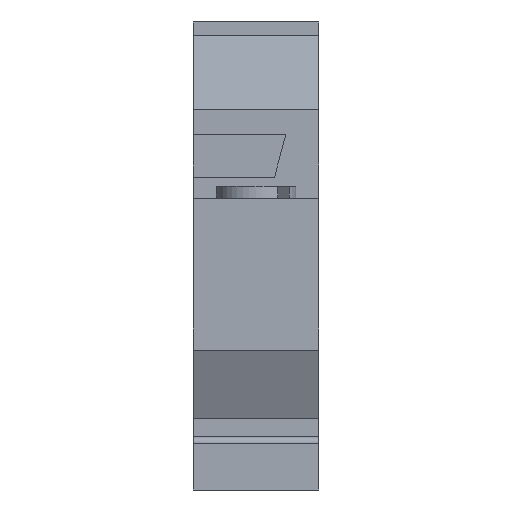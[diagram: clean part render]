
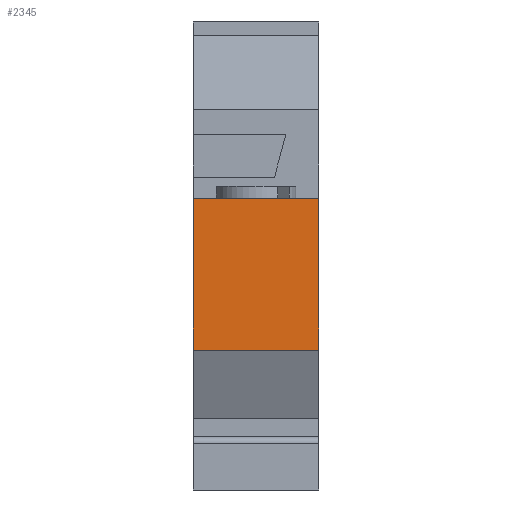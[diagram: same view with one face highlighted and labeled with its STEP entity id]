
A CAD part, front view. The second image highlights one B-rep face of the part: STEP entity #2345.
In plain terms, the highlighted planar face has unit normal (0, -1, 0).
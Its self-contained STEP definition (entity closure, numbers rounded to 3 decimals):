
#431=CARTESIAN_POINT('',(9.5,0.,22.));
#432=VERTEX_POINT('',#431);
#439=CARTESIAN_POINT('',(9.5,-0.,10.551));
#440=VERTEX_POINT('',#439);
#441=CARTESIAN_POINT('',(9.5,0.,10.551));
#442=DIRECTION('',(0.,0.,1.));
#443=VECTOR('',#442,11.449);
#444=LINE('',#441,#443);
#445=EDGE_CURVE('',#440,#432,#444,.T.);
#1431=CARTESIAN_POINT('',(0.,-0.,10.551));
#1432=VERTEX_POINT('',#1431);
#1439=CARTESIAN_POINT('',(0.,0.,22.));
#1440=VERTEX_POINT('',#1439);
#1441=CARTESIAN_POINT('',(0.,0.,10.551));
#1442=DIRECTION('',(0.,0.,1.));
#1443=VECTOR('',#1442,11.449);
#1444=LINE('',#1441,#1443);
#1445=EDGE_CURVE('',#1432,#1440,#1444,.T.);
#2319=CARTESIAN_POINT('',(9.5,-0.,10.551));
#2320=DIRECTION('',(-1.,0.,0.));
#2321=VECTOR('',#2320,9.5);
#2322=LINE('',#2319,#2321);
#2323=EDGE_CURVE('',#440,#1432,#2322,.T.);
#2329=CARTESIAN_POINT('',(0.,0.,11.216));
#2330=DIRECTION('',(0.,-1.,0.));
#2331=DIRECTION('',(1.,0.,0.));
#2332=AXIS2_PLACEMENT_3D('',#2329,#2330,#2331);
#2333=PLANE('',#2332);
#2334=ORIENTED_EDGE('',*,*,#2323,.F.);
#2335=ORIENTED_EDGE('',*,*,#445,.T.);
#2336=CARTESIAN_POINT('',(9.5,0.,22.));
#2337=DIRECTION('',(-1.,-0.,-0.));
#2338=VECTOR('',#2337,9.5);
#2339=LINE('',#2336,#2338);
#2340=EDGE_CURVE('',#432,#1440,#2339,.T.);
#2341=ORIENTED_EDGE('',*,*,#2340,.T.);
#2342=ORIENTED_EDGE('',*,*,#1445,.F.);
#2343=EDGE_LOOP('',(#2334,#2335,#2341,#2342));
#2344=FACE_BOUND('',#2343,.T.);
#2345=ADVANCED_FACE('',(#2344),#2333,.T.);
